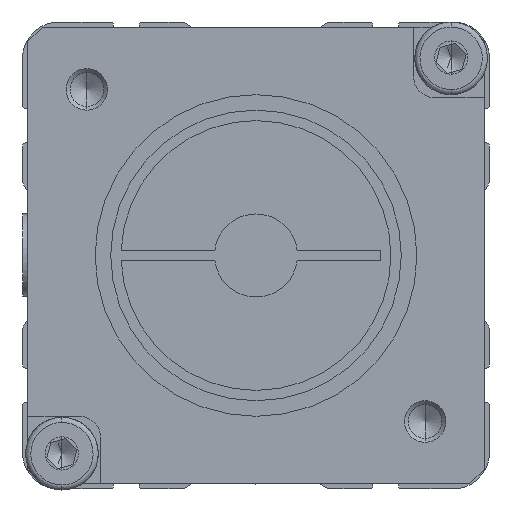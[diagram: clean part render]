
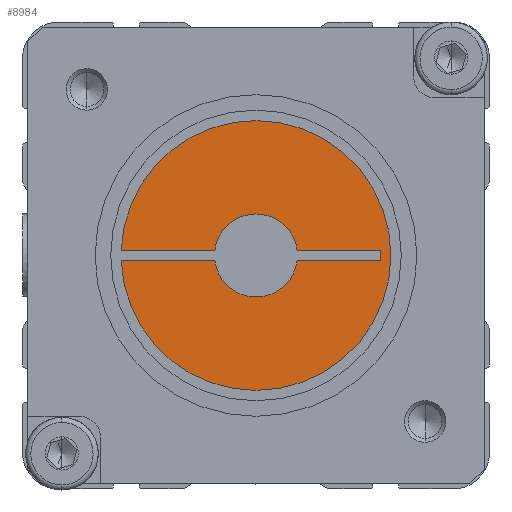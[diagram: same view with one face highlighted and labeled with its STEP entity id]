
A CAD part, left-side view. The second image highlights one B-rep face of the part: STEP entity #8984.
In plain terms, the highlighted planar face has unit normal (-1, 0, 0).
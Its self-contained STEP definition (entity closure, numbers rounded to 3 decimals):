
#526 = FACE_OUTER_BOUND ( 'NONE', #5833, .T. ) ;
#621 = EDGE_CURVE ( 'NONE', #4104, #4121, #7814, .T. ) ;
#622 = EDGE_CURVE ( 'NONE', #4122, #4121, #7813, .T. ) ;
#623 = EDGE_CURVE ( 'NONE', #4123, #4122, #7817, .T. ) ;
#624 = EDGE_CURVE ( 'NONE', #4127, #4123, #7816, .T. ) ;
#625 = EDGE_CURVE ( 'NONE', #4124, #4126, #7819, .T. ) ;
#626 = EDGE_CURVE ( 'NONE', #4110, #4124, #7822, .T. ) ;
#627 = EDGE_CURVE ( 'NONE', #4108, #4109, #7821, .T. ) ;
#630 = EDGE_CURVE ( 'NONE', #4127, #4126, #7828, .T. ) ;
#642 = EDGE_CURVE ( 'NONE', #4107, #4104, #7848, .T. ) ;
#646 = EDGE_CURVE ( 'NONE', #4108, #4107, #7854, .T. ) ;
#648 = EDGE_CURVE ( 'NONE', #4109, #4110, #7857, .T. ) ;
#2029 = DIRECTION ( 'NONE',  ( 0., 0., -1. ) ) ;
#2031 = DIRECTION ( 'NONE',  ( 1., 0., 0. ) ) ;
#2033 = CARTESIAN_POINT ( 'NONE',  ( -325.5, 0., 0. ) ) ;
#2034 = PLANE ( 'NONE',  #10543 ) ;
#3076 = DIRECTION ( 'NONE',  ( 0., 0., 1. ) ) ;
#3077 = DIRECTION ( 'NONE',  ( 1., 0., 0. ) ) ;
#3078 = CARTESIAN_POINT ( 'NONE',  ( -325.5, 0., 0. ) ) ;
#3081 = DIRECTION ( 'NONE',  ( 0., 0., -1. ) ) ;
#3082 = DIRECTION ( 'NONE',  ( 1., 0., 0. ) ) ;
#3083 = CARTESIAN_POINT ( 'NONE',  ( -325.5, 0., 0. ) ) ;
#3096 = DIRECTION ( 'NONE',  ( 0., 0., -1. ) ) ;
#3097 = DIRECTION ( 'NONE',  ( 1., 0., 0. ) ) ;
#3098 = CARTESIAN_POINT ( 'NONE',  ( -325.5, 0., 0. ) ) ;
#3138 = DIRECTION ( 'NONE',  ( 0., 0., 1. ) ) ;
#3140 = CARTESIAN_POINT ( 'NONE',  ( -325.5, -12., 0. ) ) ;
#3146 = DIRECTION ( 'NONE',  ( 0., -1., 0. ) ) ;
#3149 = CARTESIAN_POINT ( 'NONE',  ( -325.5, 3.969, 0.5 ) ) ;
#3150 = DIRECTION ( 'NONE',  ( 0., 0., 1. ) ) ;
#3152 = DIRECTION ( 'NONE',  ( 1., 0., 0. ) ) ;
#3153 = CARTESIAN_POINT ( 'NONE',  ( -325.5, 0., 0. ) ) ;
#3155 = DIRECTION ( 'NONE',  ( 0., -1., 0. ) ) ;
#3156 = CARTESIAN_POINT ( 'NONE',  ( -325.5, -12., 0.5 ) ) ;
#3158 = DIRECTION ( 'NONE',  ( 0., 1., 0. ) ) ;
#3159 = CARTESIAN_POINT ( 'NONE',  ( -325.5, -3.969, -0.5 ) ) ;
#3161 = DIRECTION ( 'NONE',  ( 0., 0., 1. ) ) ;
#3162 = DIRECTION ( 'NONE',  ( 1., 0., 0. ) ) ;
#3163 = CARTESIAN_POINT ( 'NONE',  ( -325.5, 0., 0. ) ) ;
#3165 = DIRECTION ( 'NONE',  ( 0., 1., 0. ) ) ;
#3166 = CARTESIAN_POINT ( 'NONE',  ( -325.5, 13.991, -0.5 ) ) ;
#3167 = DIRECTION ( 'NONE',  ( 0., 0., -1. ) ) ;
#3168 = DIRECTION ( 'NONE',  ( 1., 0., 0. ) ) ;
#3170 = CARTESIAN_POINT ( 'NONE',  ( -325.5, 0., 0. ) ) ;
#3607 = AXIS2_PLACEMENT_3D ( 'NONE', #3170, #3168, #3167 ) ;
#3608 = AXIS2_PLACEMENT_3D ( 'NONE', #3163, #3162, #3161 ) ;
#3609 = AXIS2_PLACEMENT_3D ( 'NONE', #3153, #3152, #3150 ) ;
#3615 = AXIS2_PLACEMENT_3D ( 'NONE', #3098, #3097, #3096 ) ;
#3617 = AXIS2_PLACEMENT_3D ( 'NONE', #3083, #3082, #3081 ) ;
#3618 = AXIS2_PLACEMENT_3D ( 'NONE', #3078, #3077, #3076 ) ;
#4104 = VERTEX_POINT ( 'NONE', #9141 ) ;
#4107 = VERTEX_POINT ( 'NONE', #9131 ) ;
#4108 = VERTEX_POINT ( 'NONE', #9127 ) ;
#4109 = VERTEX_POINT ( 'NONE', #9118 ) ;
#4110 = VERTEX_POINT ( 'NONE', #9109 ) ;
#4121 = VERTEX_POINT ( 'NONE', #9073 ) ;
#4122 = VERTEX_POINT ( 'NONE', #9068 ) ;
#4123 = VERTEX_POINT ( 'NONE', #9063 ) ;
#4124 = VERTEX_POINT ( 'NONE', #9061 ) ;
#4126 = VERTEX_POINT ( 'NONE', #9050 ) ;
#4127 = VERTEX_POINT ( 'NONE', #9048 ) ;
#5833 = EDGE_LOOP ( 'NONE', ( #7594, #7593, #7592, #7591, #7590, #7589, #7588, #7587, #7586, #7585, #7584 ) ) ;
#7584 = ORIENTED_EDGE ( 'NONE', *, *, #642, .F. ) ;
#7585 = ORIENTED_EDGE ( 'NONE', *, *, #621, .F. ) ;
#7586 = ORIENTED_EDGE ( 'NONE', *, *, #622, .T. ) ;
#7587 = ORIENTED_EDGE ( 'NONE', *, *, #623, .T. ) ;
#7588 = ORIENTED_EDGE ( 'NONE', *, *, #624, .T. ) ;
#7589 = ORIENTED_EDGE ( 'NONE', *, *, #630, .F. ) ;
#7590 = ORIENTED_EDGE ( 'NONE', *, *, #625, .T. ) ;
#7591 = ORIENTED_EDGE ( 'NONE', *, *, #626, .T. ) ;
#7592 = ORIENTED_EDGE ( 'NONE', *, *, #648, .T. ) ;
#7593 = ORIENTED_EDGE ( 'NONE', *, *, #627, .T. ) ;
#7594 = ORIENTED_EDGE ( 'NONE', *, *, #646, .F. ) ;
#7813 = LINE ( 'NONE', #3166, #7815 ) ;
#7814 = CIRCLE ( 'NONE', #3607, 13. ) ;
#7815 = VECTOR ( 'NONE', #3165, 1000. ) ;
#7816 = LINE ( 'NONE', #3159, #7818 ) ;
#7817 = CIRCLE ( 'NONE', #3608, 4. ) ;
#7818 = VECTOR ( 'NONE', #3158, 1000. ) ;
#7819 = LINE ( 'NONE', #3156, #7820 ) ;
#7820 = VECTOR ( 'NONE', #3155, 1000. ) ;
#7821 = LINE ( 'NONE', #3149, #7823 ) ;
#7822 = CIRCLE ( 'NONE', #3609, 4. ) ;
#7823 = VECTOR ( 'NONE', #3146, 1000. ) ;
#7828 = LINE ( 'NONE', #3140, #7829 ) ;
#7829 = VECTOR ( 'NONE', #3138, 1000. ) ;
#7848 = CIRCLE ( 'NONE', #3615, 13. ) ;
#7854 = CIRCLE ( 'NONE', #3617, 13. ) ;
#7857 = CIRCLE ( 'NONE', #3618, 4. ) ;
#8984 = ADVANCED_FACE ( 'NONE', ( #526 ), #2034, .F. ) ;
#9048 = CARTESIAN_POINT ( 'NONE',  ( -325.5, -12., -0.5 ) ) ;
#9050 = CARTESIAN_POINT ( 'NONE',  ( -325.5, -12., 0.5 ) ) ;
#9061 = CARTESIAN_POINT ( 'NONE',  ( -325.5, -3.969, 0.5 ) ) ;
#9063 = CARTESIAN_POINT ( 'NONE',  ( -325.5, -3.969, -0.5 ) ) ;
#9068 = CARTESIAN_POINT ( 'NONE',  ( -325.5, 3.969, -0.5 ) ) ;
#9073 = CARTESIAN_POINT ( 'NONE',  ( -325.5, 12.99, -0.5 ) ) ;
#9109 = CARTESIAN_POINT ( 'NONE',  ( -325.5, 0., 4. ) ) ;
#9118 = CARTESIAN_POINT ( 'NONE',  ( -325.5, 3.969, 0.5 ) ) ;
#9127 = CARTESIAN_POINT ( 'NONE',  ( -325.5, 12.99, 0.5 ) ) ;
#9131 = CARTESIAN_POINT ( 'NONE',  ( -325.5, 0., 13. ) ) ;
#9141 = CARTESIAN_POINT ( 'NONE',  ( -325.5, 0., -13. ) ) ;
#10543 = AXIS2_PLACEMENT_3D ( 'NONE', #2033, #2031, #2029 ) ;
